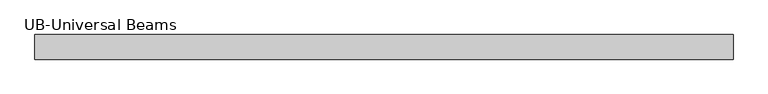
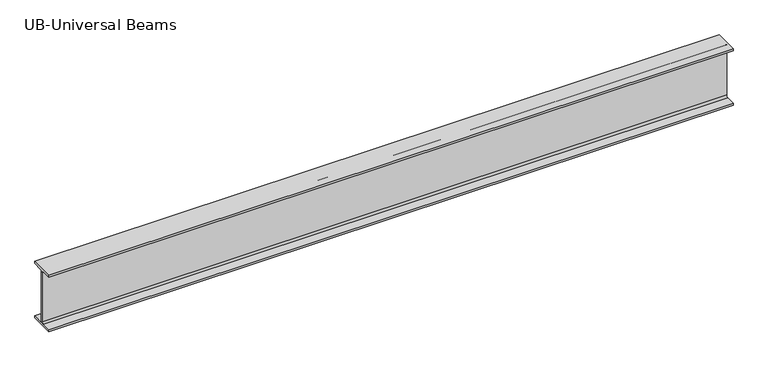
"""IFC4 building model written with IfcOpenShell, lengths in millimetres: beam geometry."""

from ifc_helpers import new_model, si_unit, point, frame, frame_2d, origin, place, context, project, spatial, polyline, circle_curve, trimmed, segment, composite_curve, outline, extrude, source, transform, mapped, element, save


def ub_universal_beams_0c249d50(model_context):
    return source(origin(), model_context, "Body", "SweptSolid", [
        extrude(outline(composite_curve([segment(polyline([(61.7, -141.5), (61.7, -152.2), (-61.7, -152.2), (-61.7, -141.5), (-12.45, -141.5)]), True, "CONTINUOUS"), segment(trimmed(circle_curve(frame_2d((-12.45, -132.6)), 8.9), [point((-12.45, -141.5))], [point((-3.55, -132.6))], True, "CARTESIAN"), True, "CONTINUOUS"), segment(polyline([(-3.55, -132.6), (-3.55, 132.6)]), True, "CONTINUOUS"), segment(trimmed(circle_curve(frame_2d((-12.45, 132.6)), 8.9), [point((-3.55, 132.6))], [point((-12.45, 141.5))], True, "CARTESIAN"), True, "CONTINUOUS"), segment(polyline([(-12.45, 141.5), (-61.7, 141.5), (-61.7, 152.2), (61.7, 152.2), (61.7, 141.5), (12.45, 141.5)]), True, "CONTINUOUS"), segment(trimmed(circle_curve(frame_2d((12.45, 132.6)), 8.9), [point((12.45, 141.5))], [point((3.55, 132.6))], True, "CARTESIAN"), True, "CONTINUOUS"), segment(polyline([(3.55, 132.6), (3.55, -132.6)]), True, "CONTINUOUS"), segment(trimmed(circle_curve(frame_2d((12.45, -132.6)), 8.9), [point((3.55, -132.6))], [point((12.45, -141.5))], True, "CARTESIAN"), True, "CONTINUOUS"), segment(polyline([(12.45, -141.5), (61.7, -141.5)]), True, "CONTINUOUS")], self_intersect=False)), frame((-1745.4, 0.0, 0.0), z_axis=(1.0, 0.0, 0.0), x_axis=(0.0, 1.0, 0.0)), (0.0, 0.0, 1.0), 3495.2),
    ])


if __name__ == "__main__":
    model = new_model("IFC4")
    model_context = context("Model", 3, world=origin())
    ifc_project = project(units=[si_unit("LENGTHUNIT", "METRE", prefix="MILLI")], contexts=[model_context])
    site = spatial("IfcSite", under=ifc_project)
    building = spatial("IfcBuilding", under=site)
    placement = place(None, origin())
    ub_universal_beams_shape = ub_universal_beams_0c249d50(model_context)
    element("IfcBeam", 1, ObjectType="UB-Universal Beams : UB 12\" x 5\" x 1 1/2\"", at=placement, inside=building, context=model_context, shape_type="MappedRepresentation", body=[
        mapped(ub_universal_beams_shape, transform((0.0, 0.0, 0.0), x_axis=(1.0, 0.0, 0.0), y_axis=(0.0, 1.0, 0.0), z_axis=(0.0, 0.0, 1.0))),
    ])
    save(model, "model.ifc")
